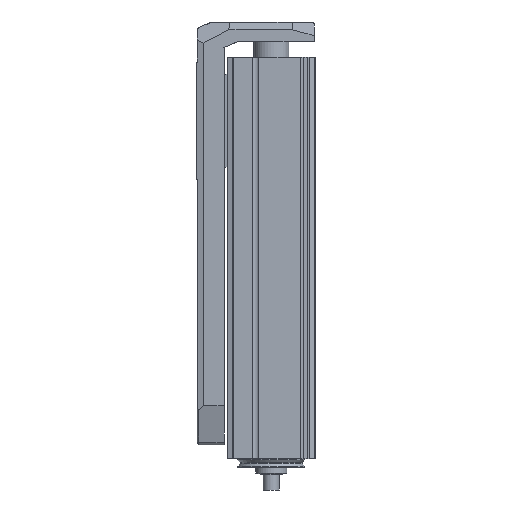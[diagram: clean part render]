
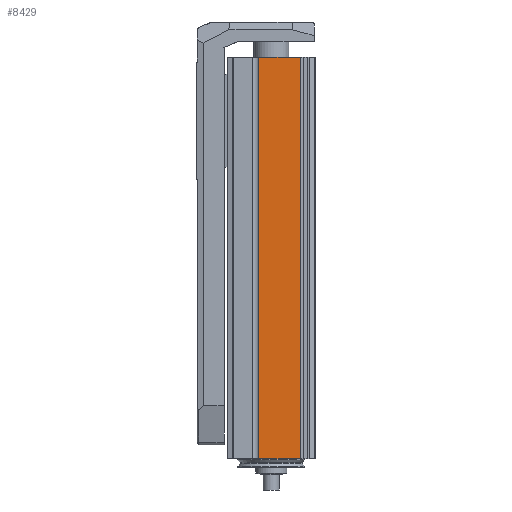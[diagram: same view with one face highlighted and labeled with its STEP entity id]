
A CAD part, left-side view. The second image highlights one B-rep face of the part: STEP entity #8429.
In plain terms, the highlighted planar face has unit normal (-1, 0, 0) as drawn and (0, 0, 1) by its records, which use the part's own axes.
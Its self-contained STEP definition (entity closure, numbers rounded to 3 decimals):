
#773=LINE('',#13561,#1303);
#789=LINE('',#13607,#1319);
#790=LINE('',#13611,#1320);
#791=LINE('',#13613,#1321);
#1303=VECTOR('',#10859,1000.);
#1319=VECTOR('',#10905,1000.);
#1320=VECTOR('',#10910,1000.);
#1321=VECTOR('',#10911,1000.);
#2647=ORIENTED_EDGE('',*,*,#4217,.T.);
#2648=ORIENTED_EDGE('',*,*,#4242,.F.);
#2649=ORIENTED_EDGE('',*,*,#4243,.F.);
#2650=ORIENTED_EDGE('',*,*,#4240,.T.);
#4217=EDGE_CURVE('',#5077,#5076,#773,.T.);
#4240=EDGE_CURVE('',#5092,#5077,#789,.T.);
#4242=EDGE_CURVE('',#5093,#5076,#790,.T.);
#4243=EDGE_CURVE('',#5092,#5093,#791,.T.);
#5076=VERTEX_POINT('',#13560);
#5077=VERTEX_POINT('',#13562);
#5092=VERTEX_POINT('',#13608);
#5093=VERTEX_POINT('',#13612);
#6009=EDGE_LOOP('',(#2647,#2648,#2649,#2650));
#6621=FACE_BOUND('',#6009,.T.);
#6947=PLANE('',#9134);
#8429=ADVANCED_FACE('',(#6621),#6947,.F.);
#9134=AXIS2_PLACEMENT_3D('',#13610,#10908,#10909);
#10859=DIRECTION('',(0.,-1.,0.));
#10905=DIRECTION('',(-1.,0.,0.));
#10908=DIRECTION('',(0.,0.,-1.));
#10909=DIRECTION('',(-1.,0.,0.));
#10910=DIRECTION('',(-1.,0.,0.));
#10911=DIRECTION('',(0.,-1.,0.));
#13560=CARTESIAN_POINT('',(0.,-6.3,22.5));
#13561=CARTESIAN_POINT('',(0.,14.82,22.5));
#13562=CARTESIAN_POINT('',(0.,14.82,22.5));
#13607=CARTESIAN_POINT('',(205.,14.82,22.5));
#13608=CARTESIAN_POINT('',(205.,14.82,22.5));
#13610=CARTESIAN_POINT('',(205.,14.82,22.5));
#13611=CARTESIAN_POINT('',(205.,-6.3,22.5));
#13612=CARTESIAN_POINT('',(205.,-6.3,22.5));
#13613=CARTESIAN_POINT('',(205.,14.82,22.5));
